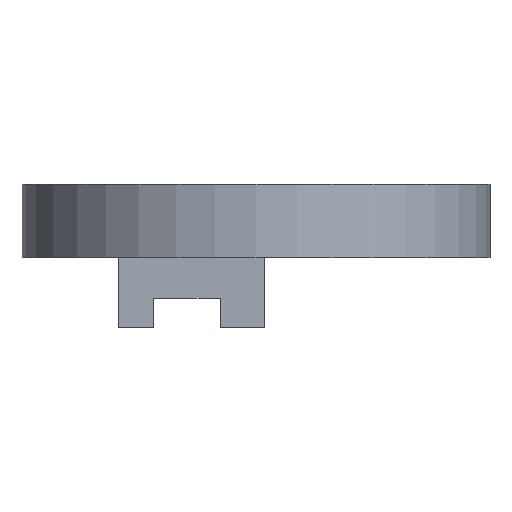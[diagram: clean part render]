
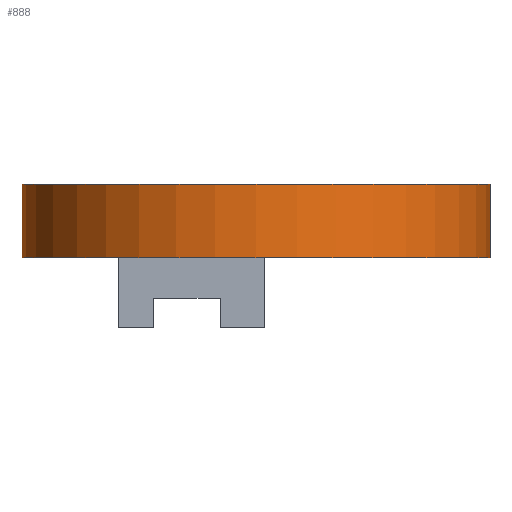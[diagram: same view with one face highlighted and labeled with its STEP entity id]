
A CAD part, front view. The second image highlights one B-rep face of the part: STEP entity #888.
In plain terms, the highlighted cylindrical face has radius 32 mm (diameter 64 mm), a full revolution.
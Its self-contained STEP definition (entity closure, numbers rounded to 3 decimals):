
#96=FACE_OUTER_BOUND('',#147,.T.);
#147=EDGE_LOOP('',(#771,#772,#773,#774));
#189=CIRCLE('',#961,32.);
#190=CIRCLE('',#962,32.);
#274=LINE('',#2451,#369);
#369=VECTOR('',#1157,32.);
#459=VERTEX_POINT('',#2448);
#460=VERTEX_POINT('',#2450);
#576=EDGE_CURVE('',#459,#459,#189,.T.);
#577=EDGE_CURVE('',#459,#460,#274,.T.);
#578=EDGE_CURVE('',#460,#460,#190,.T.);
#771=ORIENTED_EDGE('',*,*,#576,.F.);
#772=ORIENTED_EDGE('',*,*,#577,.T.);
#773=ORIENTED_EDGE('',*,*,#578,.F.);
#774=ORIENTED_EDGE('',*,*,#577,.F.);
#850=CYLINDRICAL_SURFACE('',#960,32.);
#888=ADVANCED_FACE('',(#96),#850,.T.);
#960=AXIS2_PLACEMENT_3D('',#2447,#1153,#1154);
#961=AXIS2_PLACEMENT_3D('',#2449,#1155,#1156);
#962=AXIS2_PLACEMENT_3D('',#2452,#1158,#1159);
#1153=DIRECTION('center_axis',(0.,0.,1.));
#1154=DIRECTION('ref_axis',(1.,0.,0.));
#1155=DIRECTION('center_axis',(0.,0.,1.));
#1156=DIRECTION('ref_axis',(1.,0.,0.));
#1157=DIRECTION('',(0.,0.,-1.));
#1158=DIRECTION('center_axis',(0.,0.,-1.));
#1159=DIRECTION('ref_axis',(1.,0.,0.));
#2447=CARTESIAN_POINT('Origin',(0.,0.,5.));
#2448=CARTESIAN_POINT('',(-32.,0.,10.));
#2449=CARTESIAN_POINT('Origin',(0.,0.,10.));
#2450=CARTESIAN_POINT('',(-32.,0.,0.));
#2451=CARTESIAN_POINT('',(-32.,0.,5.));
#2452=CARTESIAN_POINT('Origin',(0.,0.,0.));
